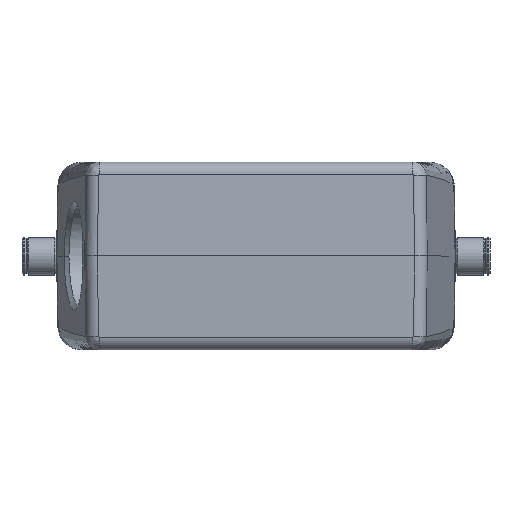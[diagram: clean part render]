
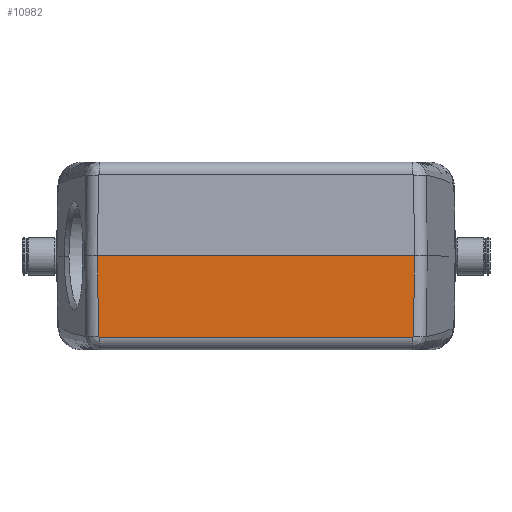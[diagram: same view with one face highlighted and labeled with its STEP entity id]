
A CAD part, top view. The second image highlights one B-rep face of the part: STEP entity #10982.
In plain terms, the highlighted planar face has unit normal (0, -0.018, 1).
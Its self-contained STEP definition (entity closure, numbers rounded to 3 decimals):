
#523 = CARTESIAN_POINT ( 'NONE',  ( 37.131, -3.35, 59.942 ) ) ;
#853 = LINE ( 'NONE', #20228, #17302 ) ;
#917 = CARTESIAN_POINT ( 'NONE',  ( -36.771, -19.052, 59.667 ) ) ;
#1235 = DIRECTION ( 'NONE',  ( -1., 0., 0. ) ) ;
#1333 = EDGE_CURVE ( 'NONE', #19646, #4346, #13387, .T. ) ;
#1865 = ORIENTED_EDGE ( 'NONE', *, *, #18625, .T. ) ;
#1955 = CARTESIAN_POINT ( 'NONE',  ( -36.771, -19.052, 59.667 ) ) ;
#2129 = CARTESIAN_POINT ( 'NONE',  ( 37.117, -4.317, 59.925 ) ) ;
#2162 = CARTESIAN_POINT ( 'NONE',  ( -36.902, -18.959, 59.669 ) ) ;
#3524 = CARTESIAN_POINT ( 'NONE',  ( 37.079, -6.881, 59.88 ) ) ;
#3551 = CARTESIAN_POINT ( 'NONE',  ( -37.18, 0., 60. ) ) ;
#3640 = CARTESIAN_POINT ( 'NONE',  ( -36.903, -18.923, 59.67 ) ) ;
#4346 = VERTEX_POINT ( 'NONE', #3551 ) ;
#4348 = DIRECTION ( 'NONE',  ( 0., -1., -0.017 ) ) ;
#4715 = CARTESIAN_POINT ( 'NONE',  ( 36.835, -19.039, 59.668 ) ) ;
#5115 = CARTESIAN_POINT ( 'NONE',  ( 36.932, -16.947, 59.704 ) ) ;
#6253 = CARTESIAN_POINT ( 'NONE',  ( 36.902, -18.955, 59.669 ) ) ;
#6383 = AXIS2_PLACEMENT_3D ( 'NONE', #9121, #20040, #4348 ) ;
#6464 = CARTESIAN_POINT ( 'NONE',  ( 36.802, -19.052, 59.667 ) ) ;
#6589 = VECTOR ( 'NONE', #7489, 1000. ) ;
#6847 = CARTESIAN_POINT ( 'NONE',  ( -36.995, -12.616, 59.78 ) ) ;
#7334 = ORIENTED_EDGE ( 'NONE', *, *, #17384, .T. ) ;
#7489 = DIRECTION ( 'NONE',  ( 1., 0., 0. ) ) ;
#8005 = CARTESIAN_POINT ( 'NONE',  ( 36.888, -18.987, 59.669 ) ) ;
#8338 = CARTESIAN_POINT ( 'NONE',  ( 36.903, -18.917, 59.67 ) ) ;
#8444 = CARTESIAN_POINT ( 'NONE',  ( -36.808, -19.052, 59.667 ) ) ;
#8459 = CARTESIAN_POINT ( 'NONE',  ( -37.088, -6.308, 59.89 ) ) ;
#8912 = PLANE ( 'NONE',  #6383 ) ;
#9121 = CARTESIAN_POINT ( 'NONE',  ( -66.197, 0., 60. ) ) ;
#9218 = CARTESIAN_POINT ( 'NONE',  ( 36.903, -18.917, 59.67 ) ) ;
#9422 = CARTESIAN_POINT ( 'NONE',  ( 36.765, -19.052, 59.667 ) ) ;
#9877 = CARTESIAN_POINT ( 'NONE',  ( 37.18, 0., 60. ) ) ;
#9939 = CARTESIAN_POINT ( 'NONE',  ( 37.116, -4.352, 59.924 ) ) ;
#9965 = EDGE_CURVE ( 'NONE', #10788, #4346, #853, .T. ) ;
#10788 = VERTEX_POINT ( 'NONE', #14931 ) ;
#10982 = ADVANCED_FACE ( 'NONE', ( #20493 ), #8912, .T. ) ;
#11585 = LINE ( 'NONE', #12366, #6589 ) ;
#11678 = CARTESIAN_POINT ( 'NONE',  ( 36.765, -19.052, 59.667 ) ) ;
#11769 = CARTESIAN_POINT ( 'NONE',  ( -36.838, -19.04, 59.668 ) ) ;
#12366 = CARTESIAN_POINT ( 'NONE',  ( -66.197, -19.052, 59.667 ) ) ;
#12634 = VERTEX_POINT ( 'NONE', #9218 ) ;
#12992 = ORIENTED_EDGE ( 'NONE', *, *, #1333, .F. ) ;
#13071 = CARTESIAN_POINT ( 'NONE',  ( 37.151, -1.971, 59.966 ) ) ;
#13254 = CARTESIAN_POINT ( 'NONE',  ( 36.992, -12.839, 59.776 ) ) ;
#13272 = B_SPLINE_CURVE_WITH_KNOTS ( 'NONE', 3,
 ( #9877, #14848, #13071, #523, #19393, #17874, #2129, #16325, #14705, #9939, #16458, #14780, #3524, #13254, #5115, #8338 ),
 .UNSPECIFIED., .F., .F.,
 ( 4, 1, 1, 1, 1, 1, 2, 2, 1, 1, 1, 4 ),
 ( 0., 0.125, 0.188, 0.219, 0.227, 0.229, 0.229, 0.23, 0.234, 0.25, 0.5, 1. ),
 .UNSPECIFIED. ) ;
#13387 = B_SPLINE_CURVE_WITH_KNOTS ( 'NONE', 3,
 ( #3640, #6847, #8459, #14562 ),
 .UNSPECIFIED., .F., .F.,
 ( 4, 4 ),
 ( 0., 1. ),
 .UNSPECIFIED. ) ;
#13389 = VERTEX_POINT ( 'NONE', #11678 ) ;
#13910 = EDGE_LOOP ( 'NONE', ( #7334, #1865, #19553, #15633, #12992, #16772 ) ) ;
#14562 = CARTESIAN_POINT ( 'NONE',  ( -37.18, 0., 60. ) ) ;
#14705 = CARTESIAN_POINT ( 'NONE',  ( 37.116, -4.348, 59.924 ) ) ;
#14780 = CARTESIAN_POINT ( 'NONE',  ( 37.113, -4.564, 59.92 ) ) ;
#14796 = EDGE_CURVE ( 'NONE', #19646, #18556, #16460, .T. ) ;
#14819 = CARTESIAN_POINT ( 'NONE',  ( -36.903, -18.923, 59.67 ) ) ;
#14848 = CARTESIAN_POINT ( 'NONE',  ( 37.168, -0.788, 59.986 ) ) ;
#14931 = CARTESIAN_POINT ( 'NONE',  ( 37.18, 0., 60. ) ) ;
#15633 = ORIENTED_EDGE ( 'NONE', *, *, #9965, .T. ) ;
#16092 = B_SPLINE_CURVE_WITH_KNOTS ( 'NONE', 3,
 ( #9422, #6464, #4715, #8005, #6253, #20609 ),
 .UNSPECIFIED., .F., .F.,
 ( 4, 2, 4 ),
 ( 0., 0.5, 1. ),
 .UNSPECIFIED. ) ;
#16325 = CARTESIAN_POINT ( 'NONE',  ( 37.117, -4.335, 59.924 ) ) ;
#16361 = CARTESIAN_POINT ( 'NONE',  ( -36.888, -18.99, 59.669 ) ) ;
#16458 = CARTESIAN_POINT ( 'NONE',  ( 37.116, -4.395, 59.923 ) ) ;
#16460 = B_SPLINE_CURVE_WITH_KNOTS ( 'NONE', 3,
 ( #14819, #2162, #16361, #11769, #8444, #1955 ),
 .UNSPECIFIED., .F., .F.,
 ( 4, 2, 4 ),
 ( 0., 0.5, 1. ),
 .UNSPECIFIED. ) ;
#16772 = ORIENTED_EDGE ( 'NONE', *, *, #14796, .T. ) ;
#17245 = CARTESIAN_POINT ( 'NONE',  ( -36.903, -18.923, 59.67 ) ) ;
#17302 = VECTOR ( 'NONE', #1235, 1000. ) ;
#17384 = EDGE_CURVE ( 'NONE', #18556, #13389, #11585, .T. ) ;
#17874 = CARTESIAN_POINT ( 'NONE',  ( 37.118, -4.249, 59.926 ) ) ;
#18556 = VERTEX_POINT ( 'NONE', #917 ) ;
#18625 = EDGE_CURVE ( 'NONE', #13389, #12634, #16092, .T. ) ;
#19165 = EDGE_CURVE ( 'NONE', #10788, #12634, #13272, .T. ) ;
#19393 = CARTESIAN_POINT ( 'NONE',  ( 37.122, -3.99, 59.93 ) ) ;
#19553 = ORIENTED_EDGE ( 'NONE', *, *, #19165, .F. ) ;
#19646 = VERTEX_POINT ( 'NONE', #17245 ) ;
#20040 = DIRECTION ( 'NONE',  ( 0., -0.017, 1. ) ) ;
#20228 = CARTESIAN_POINT ( 'NONE',  ( -66.197, 0., 60. ) ) ;
#20493 = FACE_OUTER_BOUND ( 'NONE', #13910, .T. ) ;
#20609 = CARTESIAN_POINT ( 'NONE',  ( 36.903, -18.917, 59.67 ) ) ;
